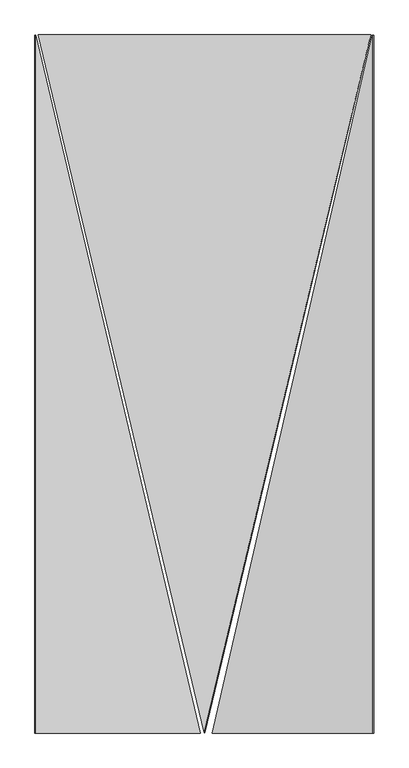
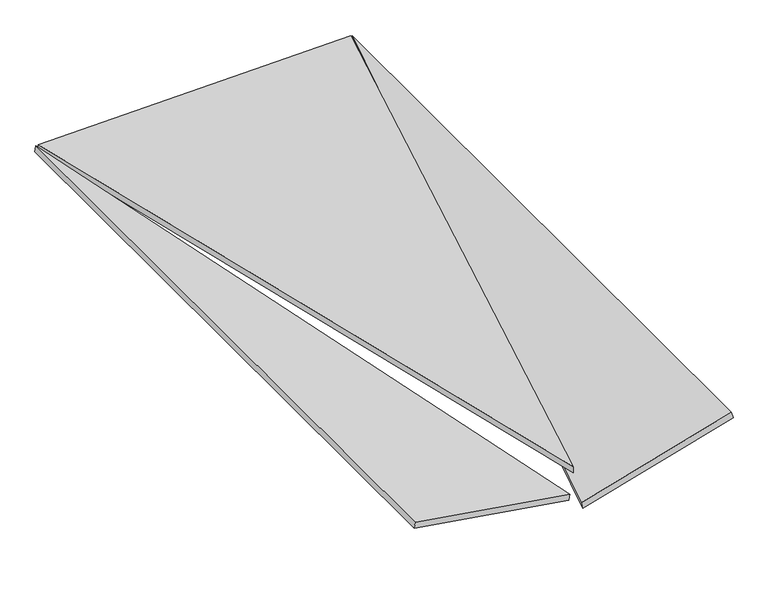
"""IFC4 building model written with IfcOpenShell, lengths in millimetres: proxy geometry, panel sufitowy 6 : panel sufitowy 6."""

from ifc_helpers import new_model, si_unit, frame, origin, place, context, project, spatial, polyline, outline, extrude, source, transform, mapped, element, save


def generic_models_e78cfc23(model_context):
    return source(origin(), model_context, "Body", "SweptSolid", [
        extrude(outline(polyline([(-900.9098917, -1e-07), (1235.4098448, 0.0), (1006.1909889, -962.7191946), (-900.9098917, -1e-07)])), frame((551.8753506, -1457.4151922, 1194.2927704), z_axis=(-0.017452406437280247, 0.0, 0.9998476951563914), x_axis=(-0.23158525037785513, 0.9728062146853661, -0.0040423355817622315)), (0.0, 0.0, 1.0), 20.0),
        extrude(outline(polyline([(-127.5, 0.0), (-622.5, 0.0), (-127.5, 2079.0), (-127.5, 0.0)])), frame((1387.7172487, -2335.0, 1241.8869), z_axis=(-0.2756373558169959, 0.0, 0.9612616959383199), x_axis=(0.9612616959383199, 0.0, 0.2756373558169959)), (0.0, 0.0, 1.0), 20.0),
        extrude(outline(polyline([(-127.5, 0.0), (-127.5, -2079.0), (-622.5, 0.0), (-127.5, 0.0)])), frame((129.379947, -2335.0, 1209.0616009), z_axis=(0.1564344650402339, 0.0, 0.9876883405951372), x_axis=(-0.9876883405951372, 0.0, 0.1564344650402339)), (0.0, 0.0, 1.0), 20.0),
    ])


if __name__ == "__main__":
    model = new_model("IFC4")
    model_context = context("Model", 3, world=origin())
    ifc_project = project(units=[si_unit("LENGTHUNIT", "METRE", prefix="MILLI")], contexts=[model_context])
    site = spatial("IfcSite", under=ifc_project)
    building = spatial("IfcBuilding", under=site)
    placement = place(None, origin())
    generic_models_shape = generic_models_e78cfc23(model_context)
    element("IfcBuildingElementProxy", 1, Name="panel sufitowy 6 : panel sufitowy 6", ObjectType="panel sufitowy 6 : panel sufitowy 6", at=placement, inside=building, context=model_context, shape_type="MappedRepresentation", body=[
        mapped(generic_models_shape, transform((0.0, 0.0, 0.0), x_axis=(1.0, 0.0, 0.0), y_axis=(0.0, 1.0, 0.0), z_axis=(0.0, 0.0, 1.0))),
    ])
    save(model, "model.ifc")
